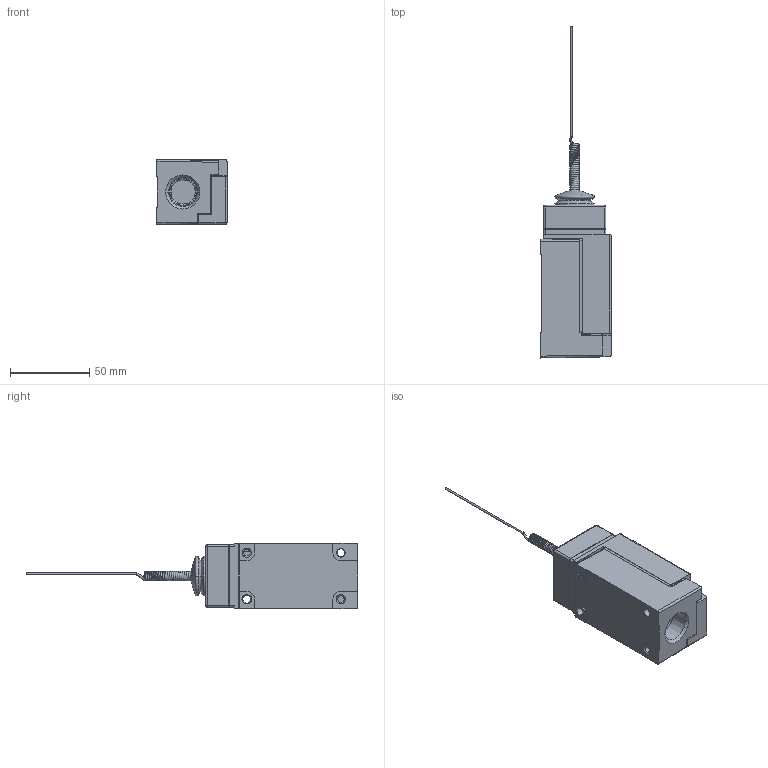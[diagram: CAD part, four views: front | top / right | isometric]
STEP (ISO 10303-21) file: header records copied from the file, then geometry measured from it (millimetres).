
FILE_DESCRIPTION((''),'2;1');
FILE_NAME('LSK1A-8A','2012-12-06T',('E522935'),(''),'PRO/ENGINEER BY PARAMETRIC TECHNOLOGY CORPORATION, 2009460','PRO/ENGINEER BY PARAMETRIC TECHNOLOGY CORPORATION, 2009460','');
FILE_SCHEMA(('CONFIG_CONTROL_DESIGN'));
Length unit declared in the file: inch
Products named in the file (1): LSK1A-8A
Bounding box: 44.32 x 210.03 x 41.15 mm (x, y, z)
Volume: 162733.7 mm3; surface area: 29054.9 mm2
Topology: 2 solids, 2 shells, 470 faces, 1174 edges, 724 vertices
Faces by surface type: plane 244, cylinder 141, cone 32, bspline 28, sphere 17, torus 8
Entity records: 24017 total; most frequent: CARTESIAN_POINT 12898, ORIENTED_EDGE 2348, DIRECTION 2267, EDGE_CURVE 1174, AXIS2_PLACEMENT_3D 807, VERTEX_POINT 724, VECTOR 653, LINE 653
